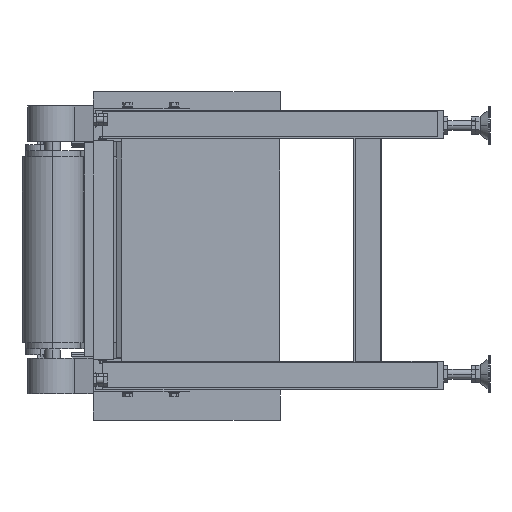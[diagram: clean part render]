
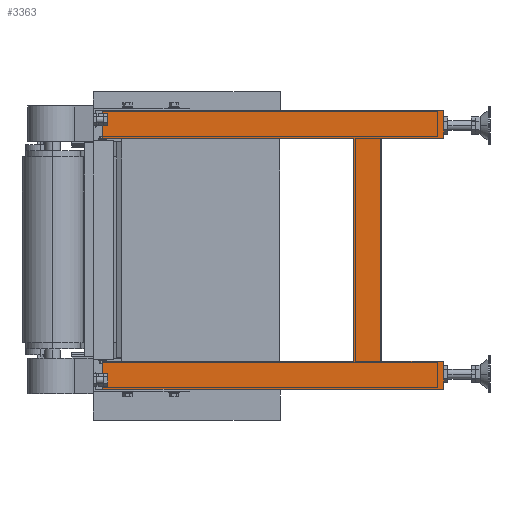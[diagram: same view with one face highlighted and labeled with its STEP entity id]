
A CAD part, left-side view. The second image highlights one B-rep face of the part: STEP entity #3363.
In plain terms, the highlighted planar face has unit normal (-1, 0, 0).
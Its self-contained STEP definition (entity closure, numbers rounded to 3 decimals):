
#3363=ADVANCED_FACE('',(#21805),#21804,.T.);
#21804=PLANE('',#36530);
#21805=FACE_OUTER_BOUND('',#36531,.T.);
#36527=CARTESIAN_POINT('',(262.5,-685.,-235.));
#36528=DIRECTION('',(-1.,0.,0.));
#36529=DIRECTION('',(0.,0.,1.));
#36530=AXIS2_PLACEMENT_3D('',#36527,#36528,#36529);
#36531=EDGE_LOOP('',(#48222,#48223,#48224,#48225,#48226,#48227,#48228,#48229,#48230,#48231,#48232,#48233,#48234,#48235,#48236,#48237,#48238,#48239));
#48222=ORIENTED_EDGE('',*,*,#54990,.F.);
#48223=ORIENTED_EDGE('',*,*,#55004,.F.);
#48224=ORIENTED_EDGE('',*,*,#54682,.T.);
#48225=ORIENTED_EDGE('',*,*,#55087,.T.);
#48226=ORIENTED_EDGE('',*,*,#55079,.T.);
#48227=ORIENTED_EDGE('',*,*,#55034,.F.);
#48228=ORIENTED_EDGE('',*,*,#55219,.F.);
#48229=ORIENTED_EDGE('',*,*,#55044,.F.);
#48230=ORIENTED_EDGE('',*,*,#55081,.F.);
#48231=ORIENTED_EDGE('',*,*,#55073,.F.);
#48232=ORIENTED_EDGE('',*,*,#55088,.T.);
#48233=ORIENTED_EDGE('',*,*,#54710,.F.);
#48234=ORIENTED_EDGE('',*,*,#54677,.F.);
#48235=ORIENTED_EDGE('',*,*,#54984,.T.);
#48236=ORIENTED_EDGE('',*,*,#55003,.T.);
#48237=ORIENTED_EDGE('',*,*,#54924,.T.);
#48238=ORIENTED_EDGE('',*,*,#54834,.T.);
#48239=ORIENTED_EDGE('',*,*,#54934,.T.);
#54677=EDGE_CURVE('',#82860,#82818,#82867,.T.);
#54682=EDGE_CURVE('',#82901,#82902,#82903,.T.);
#54710=EDGE_CURVE('',#82818,#83088,#83089,.T.);
#54834=EDGE_CURVE('',#83893,#83921,#83928,.T.);
#54924=EDGE_CURVE('',#84534,#83893,#84535,.T.);
#54934=EDGE_CURVE('',#83921,#84595,#84602,.T.);
#54984=EDGE_CURVE('',#82860,#84930,#84931,.T.);
#54990=EDGE_CURVE('',#84964,#84595,#84971,.T.);
#55003=EDGE_CURVE('',#84930,#84534,#85057,.T.);
#55004=EDGE_CURVE('',#82901,#84964,#85063,.T.);
#55034=EDGE_CURVE('',#85265,#85272,#85273,.T.);
#55044=EDGE_CURVE('',#85332,#85257,#85339,.T.);
#55073=EDGE_CURVE('',#85527,#85528,#85529,.T.);
#55079=EDGE_CURVE('',#85567,#85272,#85568,.T.);
#55081=EDGE_CURVE('',#85528,#85332,#85580,.T.);
#55087=EDGE_CURVE('',#82902,#85567,#85621,.T.);
#55088=EDGE_CURVE('',#85527,#83088,#85627,.T.);
#55219=EDGE_CURVE('',#85257,#85265,#86498,.T.);
#82818=VERTEX_POINT('',#110228);
#82860=VERTEX_POINT('',#110252);
#82867=LINE('',#110256,#110257);
#82901=VERTEX_POINT('',#110275);
#82902=VERTEX_POINT('',#110276);
#82903=LINE('',#110277,#110278);
#83088=VERTEX_POINT('',#110378);
#83089=LINE('',#110379,#110380);
#83893=VERTEX_POINT('',#110849);
#83921=VERTEX_POINT('',#110868);
#83928=LINE('',#110873,#110874);
#84534=VERTEX_POINT('',#111245);
#84535=LINE('',#111246,#111247);
#84595=VERTEX_POINT('',#111279);
#84602=LINE('',#111283,#111284);
#84930=VERTEX_POINT('',#111467);
#84931=LINE('',#111468,#111469);
#84964=VERTEX_POINT('',#111488);
#84971=LINE('',#111492,#111493);
#85057=LINE('',#111539,#111540);
#85063=LINE('',#111542,#111543);
#85257=VERTEX_POINT('',#111666);
#85265=VERTEX_POINT('',#111672);
#85272=VERTEX_POINT('',#111677);
#85273=LINE('',#111678,#111679);
#85332=VERTEX_POINT('',#111712);
#85339=LINE('',#111716,#111717);
#85527=VERTEX_POINT('',#111823);
#85528=VERTEX_POINT('',#111824);
#85529=LINE('',#111825,#111826);
#85567=VERTEX_POINT('',#111847);
#85568=LINE('',#111848,#111849);
#85580=LINE('',#111854,#111855);
#85621=LINE('',#111880,#111881);
#85627=LINE('',#111883,#111884);
#86498=LINE('',#112403,#112404);
#110228=CARTESIAN_POINT('',(262.5,-575.,180.));
#110252=CARTESIAN_POINT('',(262.5,-675.,180.));
#110256=CARTESIAN_POINT('',(262.5,-675.,180.));
#110257=VECTOR('',#110258,100.);
#110258=DIRECTION('',(0.,1.,0.));
#110275=CARTESIAN_POINT('',(262.5,-530.,180.));
#110276=CARTESIAN_POINT('',(262.5,-530.,-180.));
#110277=CARTESIAN_POINT('',(262.5,-530.,180.));
#110278=VECTOR('',#110279,360.);
#110279=DIRECTION('',(0.,0.,-1.));
#110378=CARTESIAN_POINT('',(262.5,-575.,-180.));
#110379=CARTESIAN_POINT('',(262.5,-575.,180.));
#110380=VECTOR('',#110381,360.);
#110381=DIRECTION('',(0.,0.,-1.));
#110849=CARTESIAN_POINT('',(262.5,-180.417,225.));
#110868=CARTESIAN_POINT('',(262.5,-168.768,225.));
#110873=CARTESIAN_POINT('',(262.5,-180.417,225.));
#110874=VECTOR('',#110875,11.649);
#110875=DIRECTION('',(0.,1.,0.));
#111245=CARTESIAN_POINT('',(262.5,-265.,225.));
#111246=CARTESIAN_POINT('',(262.5,-265.,225.));
#111247=VECTOR('',#111248,84.583);
#111248=DIRECTION('',(0.,1.,0.));
#111279=CARTESIAN_POINT('',(262.5,-125.,225.));
#111283=CARTESIAN_POINT('',(262.5,-168.768,225.));
#111284=VECTOR('',#111285,43.768);
#111285=DIRECTION('',(0.,1.,0.));
#111467=CARTESIAN_POINT('',(262.5,-675.,225.));
#111468=CARTESIAN_POINT('',(262.5,-675.,180.));
#111469=VECTOR('',#111470,45.);
#111470=DIRECTION('',(0.,0.,1.));
#111488=CARTESIAN_POINT('',(262.5,-125.,180.));
#111492=CARTESIAN_POINT('',(262.5,-125.,180.));
#111493=VECTOR('',#111494,45.);
#111494=DIRECTION('',(0.,0.,1.));
#111539=CARTESIAN_POINT('',(262.5,-675.,225.));
#111540=VECTOR('',#111541,410.);
#111541=DIRECTION('',(0.,1.,0.));
#111542=CARTESIAN_POINT('',(262.5,-530.,180.));
#111543=VECTOR('',#111544,405.);
#111544=DIRECTION('',(0.,1.,0.));
#111666=CARTESIAN_POINT('',(262.5,-180.417,-225.));
#111672=CARTESIAN_POINT('',(262.5,-168.768,-225.));
#111677=CARTESIAN_POINT('',(262.5,-125.,-225.));
#111678=CARTESIAN_POINT('',(262.5,-168.768,-225.));
#111679=VECTOR('',#111680,43.768);
#111680=DIRECTION('',(0.,1.,0.));
#111712=CARTESIAN_POINT('',(262.5,-265.,-225.));
#111716=CARTESIAN_POINT('',(262.5,-265.,-225.));
#111717=VECTOR('',#111718,84.583);
#111718=DIRECTION('',(0.,1.,0.));
#111823=CARTESIAN_POINT('',(262.5,-675.,-180.));
#111824=CARTESIAN_POINT('',(262.5,-675.,-225.));
#111825=CARTESIAN_POINT('',(262.5,-675.,-180.));
#111826=VECTOR('',#111827,45.);
#111827=DIRECTION('',(0.,0.,-1.));
#111847=CARTESIAN_POINT('',(262.5,-125.,-180.));
#111848=CARTESIAN_POINT('',(262.5,-125.,-180.));
#111849=VECTOR('',#111850,45.);
#111850=DIRECTION('',(0.,0.,-1.));
#111854=CARTESIAN_POINT('',(262.5,-675.,-225.));
#111855=VECTOR('',#111856,410.);
#111856=DIRECTION('',(0.,1.,0.));
#111880=CARTESIAN_POINT('',(262.5,-530.,-180.));
#111881=VECTOR('',#111882,405.);
#111882=DIRECTION('',(0.,1.,0.));
#111883=CARTESIAN_POINT('',(262.5,-675.,-180.));
#111884=VECTOR('',#111885,100.);
#111885=DIRECTION('',(0.,1.,0.));
#112403=CARTESIAN_POINT('',(262.5,-180.417,-225.));
#112404=VECTOR('',#112405,11.649);
#112405=DIRECTION('',(0.,1.,0.));
